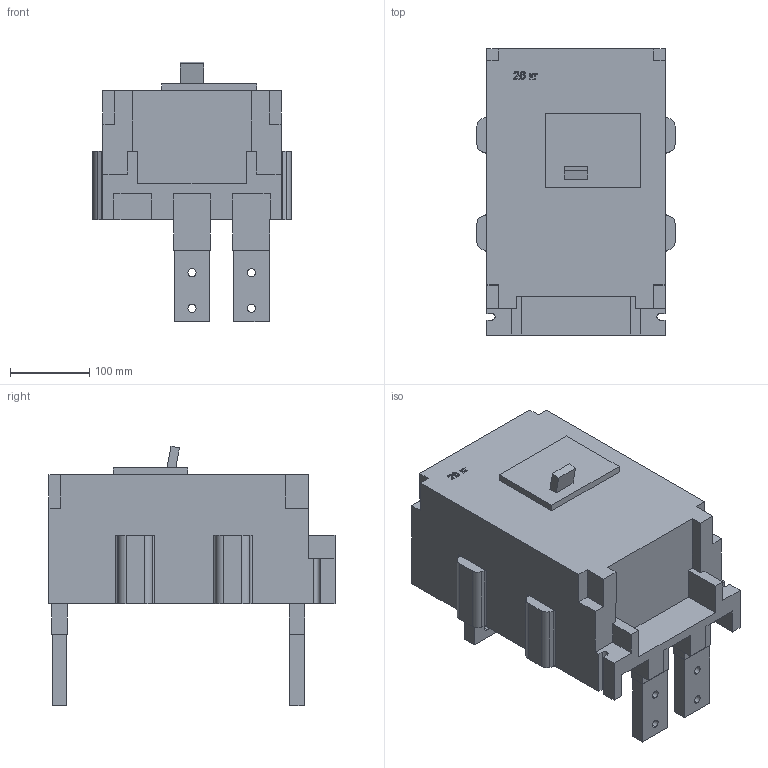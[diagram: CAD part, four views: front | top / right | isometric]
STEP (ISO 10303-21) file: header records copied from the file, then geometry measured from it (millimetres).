
FILE_DESCRIPTION (( 'STEP AP214' ), '1' );
FILE_NAME ('ÂÀ52(56)-41 çàäíåå ïðèñîåäèíåíèå DC.STEP', '2023-02-10T07:39:49', ( 'user' ), ( '' ), 'SwSTEP 2.0', 'SolidWorks 2018', '' );
FILE_SCHEMA (( 'AUTOMOTIVE_DESIGN' ));
Length unit declared in the file: millimetre
Products named in the file (1): ÂÀ52(56)-41 çàäíåå ïðèñîåäèíåíèå DC
Bounding box: 250 x 361 x 327.64 mm (x, y, z)
Volume: 12600719 mm3; surface area: 484524.9 mm2
Topology: 5 solids, 5 shells, 167 faces, 479 edges, 337 vertices
Faces by surface type: plane 129, cylinder 38
Entity records: 6017 total; most frequent: CARTESIAN_POINT 1424, ORIENTED_EDGE 958, DIRECTION 860, EDGE_CURVE 479, VECTOR 372, LINE 372, VERTEX_POINT 337, AXIS2_PLACEMENT_3D 244
